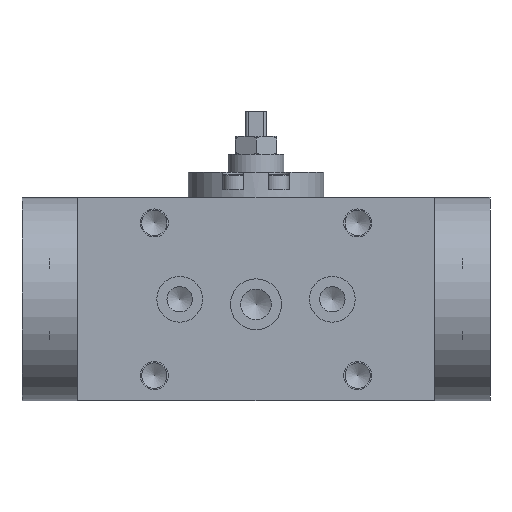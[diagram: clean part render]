
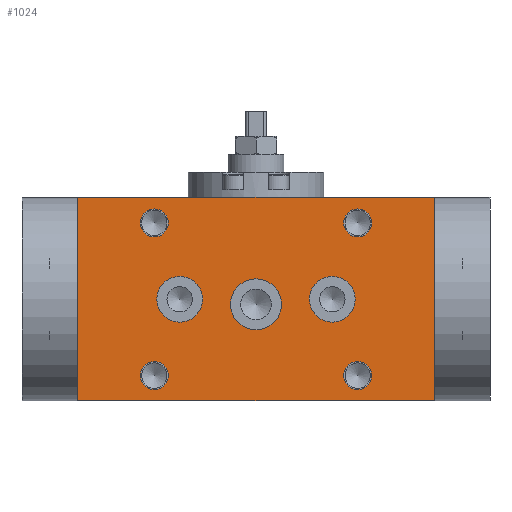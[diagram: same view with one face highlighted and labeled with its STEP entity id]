
A CAD part, front view. The second image highlights one B-rep face of the part: STEP entity #1024.
In plain terms, the highlighted planar face has unit normal (0, -1, 0).
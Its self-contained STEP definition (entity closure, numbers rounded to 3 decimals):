
#1024=ADVANCED_FACE('',(#3740,#3741,#3742,#3743,#3744,#3745,#3746,#3747),
#1707,.F.);
#1707=PLANE('',#11006);
#2114=LINE('',#15291,#2906);
#2140=LINE('',#15400,#2932);
#2160=LINE('',#15487,#2952);
#2169=LINE('',#15533,#2961);
#2906=VECTOR('',#12130,1.);
#2932=VECTOR('',#12214,1.);
#2952=VECTOR('',#12284,1.);
#2961=VECTOR('',#12323,1.);
#3740=FACE_BOUND('',#4461,.T.);
#3741=FACE_BOUND('',#4462,.T.);
#3742=FACE_BOUND('',#4463,.T.);
#3743=FACE_BOUND('',#4464,.T.);
#3744=FACE_BOUND('',#4465,.T.);
#3745=FACE_BOUND('',#4466,.T.);
#3746=FACE_BOUND('',#4467,.T.);
#3747=FACE_BOUND('',#4468,.T.);
#4461=EDGE_LOOP('',(#5618));
#4462=EDGE_LOOP('',(#5619));
#4463=EDGE_LOOP('',(#5620,#5621,#5622,#5623));
#4464=EDGE_LOOP('',(#5624));
#4465=EDGE_LOOP('',(#5625));
#4466=EDGE_LOOP('',(#5626));
#4467=EDGE_LOOP('',(#5627));
#4468=EDGE_LOOP('',(#5628));
#5618=ORIENTED_EDGE('',*,*,#9251,.F.);
#5619=ORIENTED_EDGE('',*,*,#9252,.F.);
#5620=ORIENTED_EDGE('',*,*,#9253,.T.);
#5621=ORIENTED_EDGE('',*,*,#9230,.F.);
#5622=ORIENTED_EDGE('',*,*,#9132,.F.);
#5623=ORIENTED_EDGE('',*,*,#9186,.T.);
#5624=ORIENTED_EDGE('',*,*,#9254,.T.);
#5625=ORIENTED_EDGE('',*,*,#9255,.T.);
#5626=ORIENTED_EDGE('',*,*,#9256,.F.);
#5627=ORIENTED_EDGE('',*,*,#9257,.F.);
#5628=ORIENTED_EDGE('',*,*,#9258,.T.);
#8112=VERTEX_POINT('',#15273);
#8121=VERTEX_POINT('',#15290);
#8175=VERTEX_POINT('',#15399);
#8216=VERTEX_POINT('',#15484);
#8238=VERTEX_POINT('',#15530);
#8239=VERTEX_POINT('',#15532);
#8240=VERTEX_POINT('',#15535);
#8241=VERTEX_POINT('',#15537);
#8242=VERTEX_POINT('',#15539);
#8243=VERTEX_POINT('',#15541);
#8244=VERTEX_POINT('',#15543);
#9132=EDGE_CURVE('',#8121,#8112,#2114,.T.);
#9186=EDGE_CURVE('',#8121,#8175,#2140,.T.);
#9230=EDGE_CURVE('',#8112,#8216,#2160,.T.);
#9251=EDGE_CURVE('',#8238,#8238,#10499,.T.);
#9252=EDGE_CURVE('',#8239,#8239,#10500,.T.);
#9253=EDGE_CURVE('',#8175,#8216,#2169,.T.);
#9254=EDGE_CURVE('',#8240,#8240,#10501,.T.);
#9255=EDGE_CURVE('',#8241,#8241,#10502,.T.);
#9256=EDGE_CURVE('',#8242,#8242,#10503,.T.);
#9257=EDGE_CURVE('',#8243,#8243,#10504,.T.);
#9258=EDGE_CURVE('',#8244,#8244,#10505,.T.);
#10499=CIRCLE('',#10999,5.5);
#10500=CIRCLE('',#11000,5.5);
#10501=CIRCLE('',#11001,5.5);
#10502=CIRCLE('',#11002,5.5);
#10503=CIRCLE('',#11003,10.);
#10504=CIRCLE('',#11004,9.);
#10505=CIRCLE('',#11005,9.);
#10999=AXIS2_PLACEMENT_3D('',#15529,#12319,#12320);
#11000=AXIS2_PLACEMENT_3D('',#15531,#12321,#12322);
#11001=AXIS2_PLACEMENT_3D('',#15534,#12324,#12325);
#11002=AXIS2_PLACEMENT_3D('',#15536,#12326,#12327);
#11003=AXIS2_PLACEMENT_3D('',#15538,#12328,#12329);
#11004=AXIS2_PLACEMENT_3D('',#15540,#12330,#12331);
#11005=AXIS2_PLACEMENT_3D('',#15542,#12332,#12333);
#11006=AXIS2_PLACEMENT_3D('',#15544,#12334,#12335);
#12130=DIRECTION('',(1.,0.,0.));
#12214=DIRECTION('',(0.,0.,-1.));
#12284=DIRECTION('',(0.,0.,-1.));
#12319=DIRECTION('',(0.,-1.,0.));
#12320=DIRECTION('',(-1.,0.,0.));
#12321=DIRECTION('',(0.,-1.,0.));
#12322=DIRECTION('',(1.,0.,0.));
#12323=DIRECTION('',(1.,0.,0.));
#12324=DIRECTION('',(0.,1.,0.));
#12325=DIRECTION('',(-1.,0.,0.));
#12326=DIRECTION('',(0.,1.,0.));
#12327=DIRECTION('',(1.,0.,0.));
#12328=DIRECTION('',(0.,-1.,0.));
#12329=DIRECTION('',(1.,0.,0.));
#12330=DIRECTION('',(0.,-1.,0.));
#12331=DIRECTION('',(1.,0.,0.));
#12332=DIRECTION('',(0.,1.,0.));
#12333=DIRECTION('',(-1.,0.,0.));
#12334=DIRECTION('',(0.,1.,0.));
#12335=DIRECTION('',(0.,0.,1.));
#15273=CARTESIAN_POINT('',(70.,-52.337,80.));
#15290=CARTESIAN_POINT('',(-70.,-52.337,80.));
#15291=CARTESIAN_POINT('',(-70.,-52.337,80.));
#15399=CARTESIAN_POINT('',(-70.,-52.337,0.));
#15400=CARTESIAN_POINT('',(-70.,-52.337,80.));
#15484=CARTESIAN_POINT('',(70.,-52.337,0.));
#15487=CARTESIAN_POINT('',(70.,-52.337,80.));
#15529=CARTESIAN_POINT('',(40.,-52.337,10.));
#15530=CARTESIAN_POINT('',(34.5,-52.337,10.));
#15531=CARTESIAN_POINT('',(-40.,-52.337,70.));
#15532=CARTESIAN_POINT('',(-34.5,-52.337,70.));
#15533=CARTESIAN_POINT('',(-70.,-52.337,0.));
#15534=CARTESIAN_POINT('',(40.,-52.337,70.));
#15535=CARTESIAN_POINT('',(34.5,-52.337,70.));
#15536=CARTESIAN_POINT('',(-40.,-52.337,10.));
#15537=CARTESIAN_POINT('',(-34.5,-52.337,10.));
#15538=CARTESIAN_POINT('',(0.,-52.337,38.));
#15539=CARTESIAN_POINT('',(10.,-52.337,38.));
#15540=CARTESIAN_POINT('',(-30.,-52.337,40.));
#15541=CARTESIAN_POINT('',(-21.,-52.337,40.));
#15542=CARTESIAN_POINT('',(30.,-52.337,40.));
#15543=CARTESIAN_POINT('',(21.,-52.337,40.));
#15544=CARTESIAN_POINT('',(-70.,-52.337,80.));
